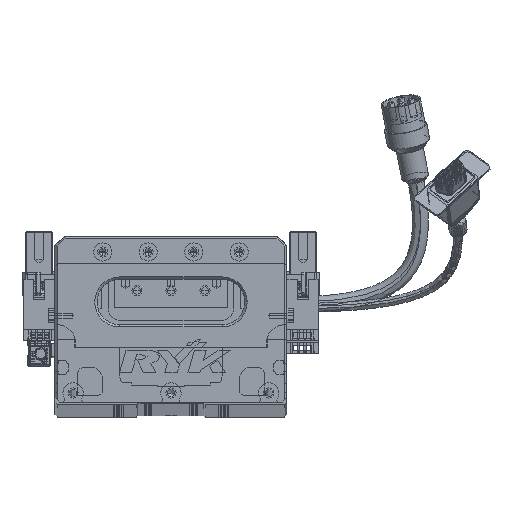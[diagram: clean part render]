
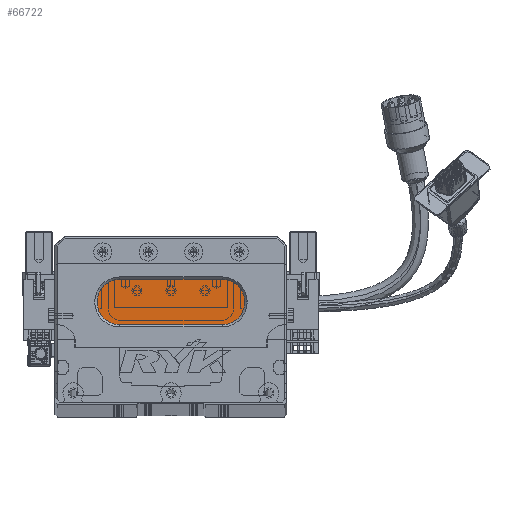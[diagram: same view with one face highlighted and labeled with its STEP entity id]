
A CAD part, top view. The second image highlights one B-rep face of the part: STEP entity #66722.
In plain terms, the highlighted planar face has unit normal (0, 0, 1) as drawn and (0, 0, -1) by its records, which use the part's own axes.
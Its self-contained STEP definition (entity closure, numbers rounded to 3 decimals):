
#331 = EDGE_CURVE ( 'NONE', #9515, #87698, #3993, .T. ) ;
#739 = DIRECTION ( 'NONE',  ( -1., 0., 0. ) ) ;
#2322 = VECTOR ( 'NONE', #14710, 1000. ) ;
#3993 = LINE ( 'NONE', #48889, #26475 ) ;
#4375 = CIRCLE ( 'NONE', #52272, 10. ) ;
#4571 = LINE ( 'NONE', #57647, #2322 ) ;
#5809 = CARTESIAN_POINT ( 'NONE',  ( 28.5, 34., 13. ) ) ;
#7756 = CARTESIAN_POINT ( 'NONE',  ( 28.5, 44., 13. ) ) ;
#7936 = DIRECTION ( 'NONE',  ( -1., 0., 0. ) ) ;
#9515 = VERTEX_POINT ( 'NONE', #91996 ) ;
#11757 = CIRCLE ( 'NONE', #54978, 10. ) ;
#13180 = ORIENTED_EDGE ( 'NONE', *, *, #85717, .T. ) ;
#14710 = DIRECTION ( 'NONE',  ( -1., 0., 0. ) ) ;
#18766 = DIRECTION ( 'NONE',  ( 0., 0., -1. ) ) ;
#19651 = AXIS2_PLACEMENT_3D ( 'NONE', #61688, #18766, #25948 ) ;
#25149 = CARTESIAN_POINT ( 'NONE',  ( 18.5, 44., 13. ) ) ;
#25325 = CARTESIAN_POINT ( 'NONE',  ( 73.5, 54., 13. ) ) ;
#25948 = DIRECTION ( 'NONE',  ( -1., 0., 0. ) ) ;
#26475 = VECTOR ( 'NONE', #78656, 1000. ) ;
#26711 = VERTEX_POINT ( 'NONE', #60619 ) ;
#29381 = VERTEX_POINT ( 'NONE', #25149 ) ;
#29966 = DIRECTION ( 'NONE',  ( -1., 0., 0. ) ) ;
#30344 = AXIS2_PLACEMENT_3D ( 'NONE', #79418, #86602, #7936 ) ;
#40174 = FACE_OUTER_BOUND ( 'NONE', #82873, .T. ) ;
#41792 = VERTEX_POINT ( 'NONE', #5809 ) ;
#43384 = DIRECTION ( 'NONE',  ( 0., 0., -1. ) ) ;
#43518 = DIRECTION ( 'NONE',  ( 0., 0., -1. ) ) ;
#45526 = ORIENTED_EDGE ( 'NONE', *, *, #331, .T. ) ;
#48889 = CARTESIAN_POINT ( 'NONE',  ( 73.5, 54., 13. ) ) ;
#49951 = CARTESIAN_POINT ( 'NONE',  ( 28.5, 44., 13. ) ) ;
#52272 = AXIS2_PLACEMENT_3D ( 'NONE', #49951, #43384, #739 ) ;
#54978 = AXIS2_PLACEMENT_3D ( 'NONE', #7756, #43518, #29966 ) ;
#57647 = CARTESIAN_POINT ( 'NONE',  ( 73.5, 34., 13. ) ) ;
#57904 = ORIENTED_EDGE ( 'NONE', *, *, #68301, .T. ) ;
#60619 = CARTESIAN_POINT ( 'NONE',  ( 73.5, 34., 13. ) ) ;
#61688 = CARTESIAN_POINT ( 'NONE',  ( 73.5, 44., 13. ) ) ;
#65444 = EDGE_CURVE ( 'NONE', #26711, #41792, #4571, .T. ) ;
#66722 = ADVANCED_FACE ( 'NONE', ( #40174 ), #72199, .T. ) ;
#68301 = EDGE_CURVE ( 'NONE', #87698, #26711, #78194, .T. ) ;
#72199 = PLANE ( 'NONE',  #30344 ) ;
#78194 = CIRCLE ( 'NONE', #19651, 10. ) ;
#78656 = DIRECTION ( 'NONE',  ( 1., 0., 0. ) ) ;
#79418 = CARTESIAN_POINT ( 'NONE',  ( 73.5, 44., 13. ) ) ;
#80271 = ORIENTED_EDGE ( 'NONE', *, *, #65444, .T. ) ;
#82160 = EDGE_CURVE ( 'NONE', #29381, #9515, #11757, .T. ) ;
#82873 = EDGE_LOOP ( 'NONE', ( #57904, #80271, #13180, #84376, #45526 ) ) ;
#84376 = ORIENTED_EDGE ( 'NONE', *, *, #82160, .T. ) ;
#85717 = EDGE_CURVE ( 'NONE', #41792, #29381, #4375, .T. ) ;
#86602 = DIRECTION ( 'NONE',  ( 0., 0., -1. ) ) ;
#87698 = VERTEX_POINT ( 'NONE', #25325 ) ;
#91996 = CARTESIAN_POINT ( 'NONE',  ( 28.5, 54., 13. ) ) ;
